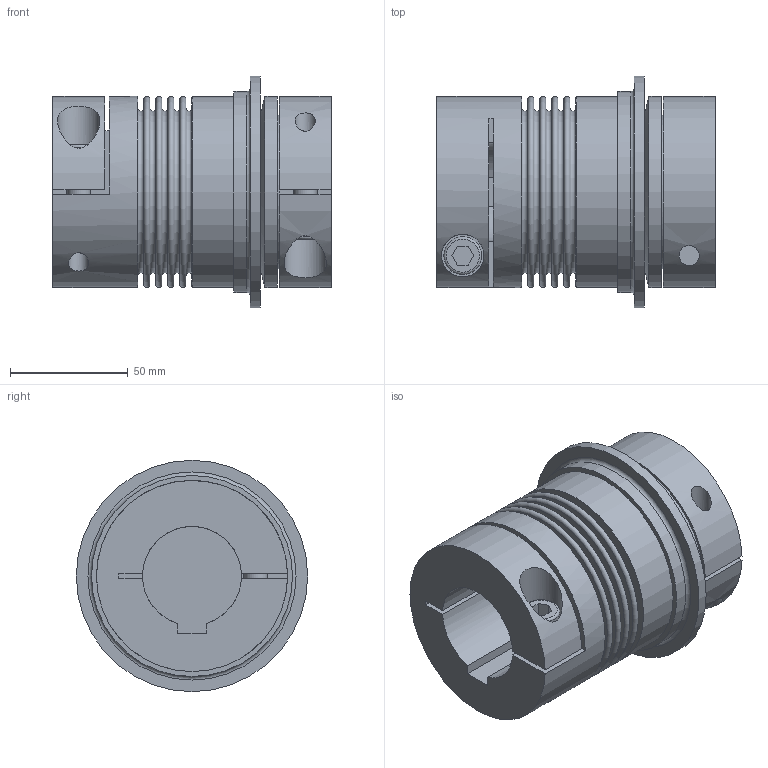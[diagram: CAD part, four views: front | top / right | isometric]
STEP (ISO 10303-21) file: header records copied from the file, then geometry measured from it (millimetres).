
FILE_DESCRIPTION(/* description */ ('STEP AP214'),/* implementation_level */ '2;1');
FILE_NAME(/* name */ 'C:\Diequa Files\DieQua Coupling\TB2\STP\TB2.150.118.F.#.#.stp',/* time_stamp */ '2019-04-26T10:41:11-05:00',/* author */ ('DiequaCAD'),/* organization */ (''),/* preprocessor_version */ 'ST-DEVELOPER v18',/* originating_system */ 'Autodesk Inventor 2020',/* authorisation */ ' ');
FILE_SCHEMA (('AUTOMOTIVE_DESIGN { 1 0 10303 214 3 1 1 }'));
Length unit declared in the file: millimetre
Products named in the file (1): TB2.150.118.F.#.#
Bounding box: 118 x 98 x 98 mm (x, y, z)
Volume: 486591.6 mm3; surface area: 83682.6 mm2
Topology: 1 solids, 1 shells, 90 faces, 212 edges, 148 vertices
Faces by surface type: plane 57, cylinder 20, torus 12, cone 1
Full cylindrical faces by diameter (mm): 8.5 x2, 10 x2, 11 x2, 16 x2, 18 x2, 65 x1, 81 x3, 85.2 x1, 98 x1
Entity records: 2857 total; most frequent: CARTESIAN_POINT 603, DIRECTION 491, ORIENTED_EDGE 424, EDGE_CURVE 212, AXIS2_PLACEMENT_3D 194, VERTEX_POINT 148, EDGE_LOOP 118, LINE 103
